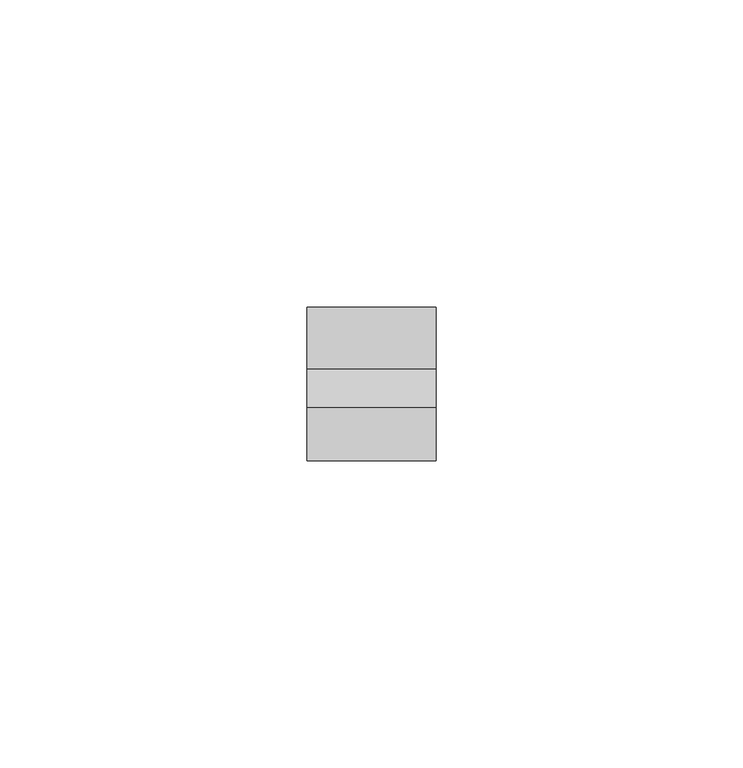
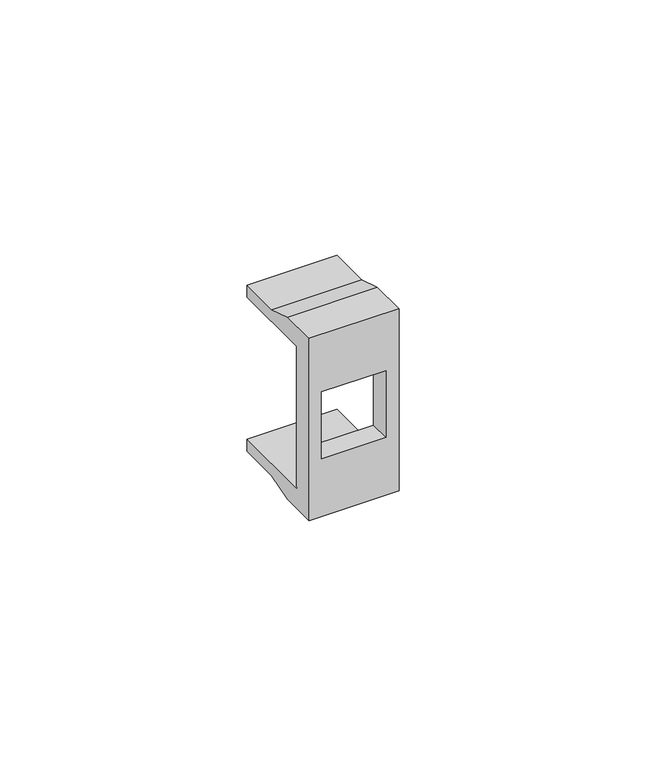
"""IFC4 building model written with IfcOpenShell, lengths in millimetres: proxy geometry, КНС_АдаптерыДляИнформационныхРазъемов_DKC : Keystone."""

from ifc_helpers import new_model, si_unit, origin, place, context, project, spatial, faceted_brep, source, transform, mapped, element, save


def electrical_fixtures_d7c70531(model_context):
    return source(origin(), model_context, "Body", "Brep", [
        faceted_brep([(-10.5, -20.0, -17.5), (10.5, -20.0, -17.5), (10.5, 0.0, -17.5), (-10.5, 0.0, -17.5), (10.5, -20.0, 17.5), (-10.5, -20.0, 17.5), (-10.5, 0.0, 17.5), (10.5, 0.0, 17.5), (7.5, -20.0, -8.25), (7.5, -20.0, 8.25), (-7.5, -20.0, 8.25), (-7.5, -20.0, -8.25), (-10.5, -10.0, 20.5), (10.5, -10.0, 20.5), (10.5, 0.0, 20.5), (-10.5, 0.0, 20.5), (-10.5, -16.2913439, 22.5), (10.5, -16.2913439, 22.5), (10.5, -10.0, -20.5), (-10.5, -10.0, -20.5), (-10.5, 0.0, -20.5), (10.5, 0.0, -20.5), (10.5, -16.2913439, -22.5), (-10.5, -16.2913439, -22.5), (10.5, -25.0, 22.5), (-10.5, -25.0, 22.5), (-10.5, -25.0, -22.5), (10.5, -25.0, -22.5), (7.5, -25.0, 8.25), (7.5, -25.0, -8.25), (-7.5, -25.0, -8.25), (-7.5, -25.0, 8.25)], [[[0, 1, 2, 3]], [[4, 5, 6, 7]], [[1, 0, 5, 4], [8, 9, 10, 11]], [[12, 13, 14, 15]], [[13, 12, 16, 17]], [[18, 19, 20, 21]], [[19, 18, 22, 23]], [[24, 25, 26, 27], [28, 29, 30, 31]], [[14, 7, 6, 15]], [[2, 21, 20, 3]], [[25, 24, 17, 16]], [[26, 25, 16, 12, 15, 6, 5, 0, 3, 20, 19, 23]], [[27, 26, 23, 22]], [[24, 27, 22, 18, 21, 2, 1, 4, 7, 14, 13, 17]], [[29, 28, 9, 8]], [[30, 29, 8, 11]], [[31, 30, 11, 10]], [[28, 31, 10, 9]]]),
    ])


if __name__ == "__main__":
    model = new_model("IFC4")
    model_context = context("Model", 3, world=origin())
    ifc_project = project(units=[si_unit("LENGTHUNIT", "METRE", prefix="MILLI")], contexts=[model_context])
    site = spatial("IfcSite", under=ifc_project)
    building = spatial("IfcBuilding", under=site)
    placement = place(None, origin())
    electrical_fixtures_shape = electrical_fixtures_d7c70531(model_context)
    element("IfcBuildingElementProxy", 1, Name="КНС_АдаптерыДляИнформационныхРазъемов_DKC : Keystone", ObjectType="КНС_АдаптерыДляИнформационныхРазъемов_DKC : Keystone", at=placement, inside=building, context=model_context, shape_type="MappedRepresentation", body=[
        mapped(electrical_fixtures_shape, transform((0.0, 0.0, 0.0), x_axis=(1.0, 0.0, 0.0), y_axis=(0.0, 1.0, 0.0), z_axis=(0.0, 0.0, 1.0))),
    ])
    save(model, "model.ifc")
